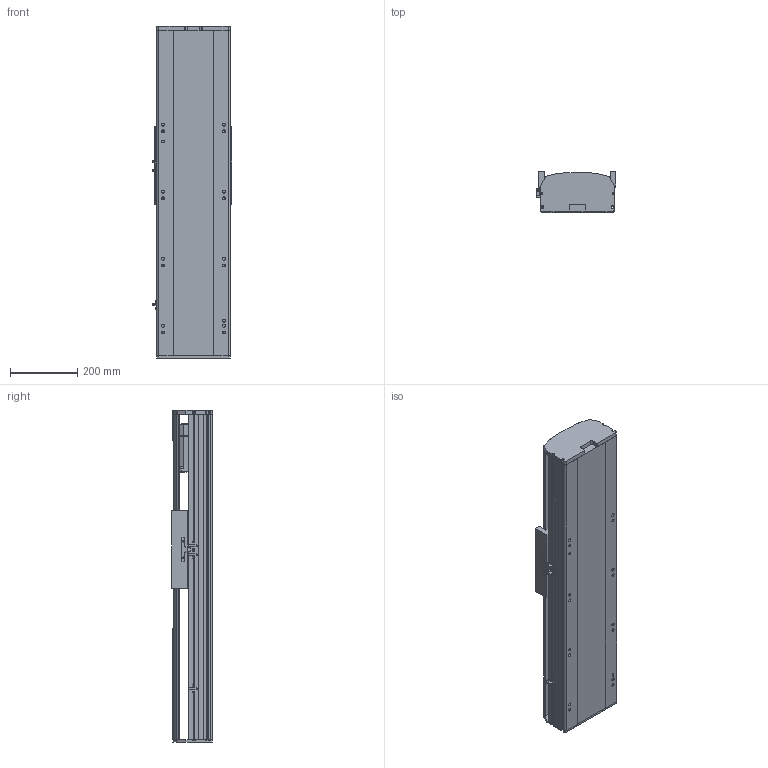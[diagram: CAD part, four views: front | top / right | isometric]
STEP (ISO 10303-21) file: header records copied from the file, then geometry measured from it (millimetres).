
FILE_DESCRIPTION (( 'STEP AP214' ), '1' );
FILE_NAME ('RTH22-XX-400-B-M75-C4.STEP', '2025-10-24T10:27:57', ( 'Microsoft' ), ( 'Microsoft' ), 'SwSTEP 2.0', 'SolidWorks 2018', '' );
FILE_SCHEMA (( 'AUTOMOTIVE_DESIGN' ));
Length unit declared in the file: millimetre
Products named in the file (9): RTH22-XX-400-B-M75-C4; N_OMRON EE-SX672 传感器^RTH22-XX-XX-B-M75-C4; N_RTH22-GY-013外置感应片^RTH22-XX-XX-B-M75-C4; N_RTH22-B-011菁釱^RTH22-XX-XX-B-M75-C4; N_RTH22-B-007奻裔^RTH22-XX-XX-B-M75-C4; N_750W萇儂^RTH22-XX-XX-B-M75-C4; N_RTH22-E-004-SFS25賑釱^RTH22-XX-XX-B-M75-C4; N_RTH22-GY-001耜裔^RTH22-XX-XX-B-M75-C4; N_RTH22-B-008萇儂啣^RTH22-XX-XX-B-M75-C4
Assembly tree (10 placements, depth 2):
  RTH22-XX-400-B-M75-C4
    N_RTH22-B-011菁釱^RTH22-XX-XX-B-M75-C4
    N_RTH22-GY-001耜裔^RTH22-XX-XX-B-M75-C4
    N_750W萇儂^RTH22-XX-XX-B-M75-C4
    N_RTH22-B-008萇儂啣^RTH22-XX-XX-B-M75-C4
    N_RTH22-B-007奻裔^RTH22-XX-XX-B-M75-C4
    N_OMRON EE-SX672 传感器^RTH22-XX-XX-B-M75-C4  x3
    N_RTH22-GY-013外置感应片^RTH22-XX-XX-B-M75-C4
    N_RTH22-E-004-SFS25賑釱^RTH22-XX-XX-B-M75-C4
Bounding box: 238.5 x 122 x 990 mm (x, y, z)
Volume: 14478519.6 mm3; surface area: 1518132.5 mm2
Topology: 10 solids, 10 shells, 1479 faces, 4050 edges, 2623 vertices
Faces by surface type: plane 748, cylinder 406, bspline 279, cone 46
Entity records: 36117 total; most frequent: CARTESIAN_POINT 11401, ORIENTED_EDGE 5100, DIRECTION 4728, EDGE_CURVE 2550, VERTEX_POINT 1659, VECTOR 1596, LINE 1596, AXIS2_PLACEMENT_3D 1566
